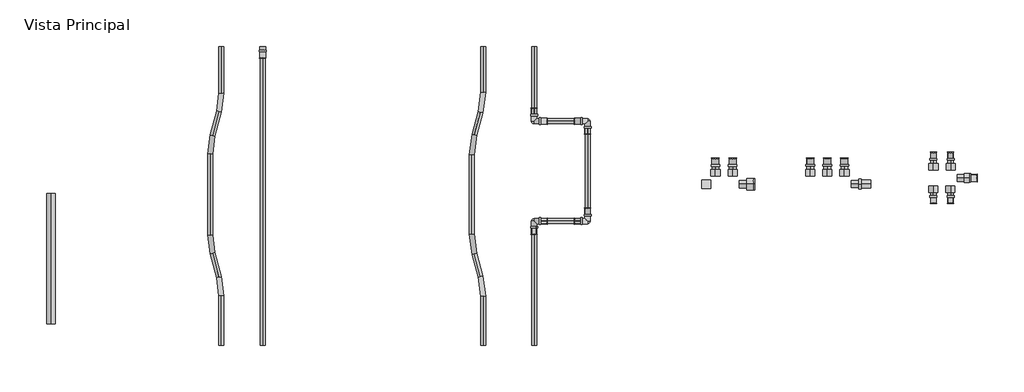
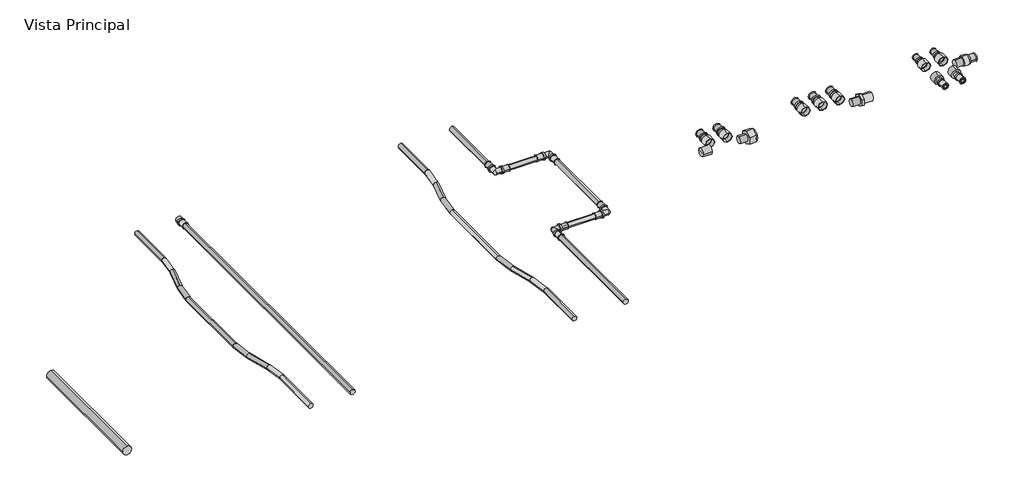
# One storey, incomplete: 45 pipe fittings, 17 pipe segments.
"""IFC4 building model written with IfcOpenShell, lengths in millimetres."""

from ifc_helpers import new_model, si_unit, point, frame, frame_2d, origin, place, context, project, spatial, circle_curve, trimmed, segment, composite_curve, outline, extrude, transform, mapped, element, save
from components import branco_24b230a2, k5_c3ce4855, k5_c3ecb90c, k5_74904ce1, k5_70490e45, k5_2a702368, vermelho_d769db20, var_72aea8ce, var_25c4f382, var_805c13c2, var_f6f279d3, var_521f35e1, var_d158d0bf

model = new_model("IFC4")

# Units and contexts
model_context = context("Model", 3, world=origin())
ifc_project = project(units=[si_unit("LENGTHUNIT", "METRE", prefix="MILLI")], contexts=[model_context])

# Site, building, storey
site = spatial("IfcSite", under=ifc_project)
building = spatial("IfcBuilding", under=site)
storey = spatial("IfcBuildingStorey", under=building, Name="Vista Principal", Elevation=0.0)

# Pipe fittings
placement = place(None, origin())
branco_shape = branco_24b230a2(model_context)
element("IfcPipeFitting", 1, ObjectType="AmancoWavin_ConexõesdeTubos_K5TuboFlexíveis : BRANCO", at=placement, inside=storey, context=model_context, shape_type="MappedRepresentation", body=[
    mapped(branco_shape, transform((1064.4256685, 639.6949026, 0.0), x_axis=(0.0, 1.0, 0.0), y_axis=(-1.0, 0.0, 0.0), z_axis=(0.0, 0.0, 1.0))),
])
element("IfcPipeFitting", 2, ObjectType="AmancoWavin_ConexõesdeTubos_K5TuboFlexíveis : BRANCO", at=placement, inside=storey, context=model_context, shape_type="MappedRepresentation", body=[
    mapped(branco_shape, transform((1028.1910021, 774.9245183, 0.0), x_axis=(0.0, -1.0, 0.0), y_axis=(1.0, 0.0, 0.0), z_axis=(0.0, 0.0, 1.0))),
])
element("IfcPipeFitting", 3, ObjectType="AmancoWavin_ConexõesdeTubos_K5TuboFlexíveis : BRANCO", at=placement, inside=storey, context=model_context, shape_type="MappedRepresentation", body=[
    mapped(branco_shape, transform((1064.4256685, 1230.1541339, 0.0), x_axis=(0.2588190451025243, 0.9659258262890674, 0.0), y_axis=(-0.9659258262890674, 0.2588190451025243, 0.0), z_axis=(0.0, 0.0, 1.0))),
])
element("IfcPipeFitting", 4, ObjectType="AmancoWavin_ConexõesdeTubos_K5TuboFlexíveis : BRANCO", at=placement, inside=storey, context=model_context, shape_type="MappedRepresentation", body=[
    mapped(branco_shape, transform((1028.1910021, 1094.9245183, 0.0), x_axis=(-0.258819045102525, -0.9659258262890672, 0.0), y_axis=(0.9659258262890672, -0.258819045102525, 0.0), z_axis=(0.0, 0.0, 1.0))),
])
k5_shape = k5_c3ce4855(model_context)
element("IfcPipeFitting", 5, ObjectType="SocketKMForTransition : K5", at=placement, inside=storey, context=model_context, shape_type="MappedRepresentation", body=[
    mapped(k5_shape, transform((2705.2509744, 1025.0541339, 0.0), x_axis=(0.0, -1.0000000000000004, 0.0), y_axis=(1.0000000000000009, 0.0, 0.0), z_axis=(0.0, 0.0, 1.0000000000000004))),
])
element("IfcPipeFitting", 6, ObjectType="SocketKMForTransition : K5", at=placement, inside=storey, context=model_context, shape_type="MappedRepresentation", body=[
    mapped(k5_shape, transform((2650.2509744, 1025.0541339, 0.0), x_axis=(0.0, -1.0000000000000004, 0.0), y_axis=(1.0000000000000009, 0.0, 0.0), z_axis=(0.0, 0.0, 1.0000000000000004))),
])
element("IfcPipeFitting", 7, ObjectType="SocketKMForTransition : K5", at=placement, inside=storey, context=model_context, shape_type="MappedRepresentation", body=[
    mapped(k5_shape, transform((3465.2801111, 987.8725491, 0.0), x_axis=(-1.0000000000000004, 0.0, 0.0), y_axis=(0.0, -1.0000000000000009, 0.0), z_axis=(0.0, 0.0, 1.0000000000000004))),
])
element("IfcPipeFitting", 8, ObjectType="SocketKMForTransition : K5", at=placement, inside=storey, context=model_context, shape_type="MappedRepresentation", body=[
    mapped(k5_shape, transform((3009.2478032, 1025.2725491, 0.0), x_axis=(0.0, -1.0000000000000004, 0.0), y_axis=(1.0000000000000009, 0.0, 0.0), z_axis=(0.0, 0.0, 1.0000000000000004))),
])
element("IfcPipeFitting", 9, ObjectType="SocketKMForTransition : K5", at=placement, inside=storey, context=model_context, shape_type="MappedRepresentation", body=[
    mapped(k5_shape, transform((3064.2478032, 1025.2725491, 0.0), x_axis=(0.0, -1.0000000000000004, 0.0), y_axis=(1.0000000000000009, 0.0, 0.0), z_axis=(0.0, 0.0, 1.0000000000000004))),
])
element("IfcPipeFitting", 10, ObjectType="SocketKMForTransition : K5", at=placement, inside=storey, context=model_context, shape_type="MappedRepresentation", body=[
    mapped(k5_shape, transform((2954.2478032, 1025.2725491, 0.0), x_axis=(0.0, -1.0000000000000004, 0.0), y_axis=(1.0000000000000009, 0.0, 0.0), z_axis=(0.0, 0.0, 1.0000000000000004))),
])
k5_2_shape = k5_c3ecb90c(model_context)
element("IfcPipeFitting", 11, ObjectType="AmancoWavin_ConexõesdeTubos_K5ZNãoUsarCampana : K5", at=placement, inside=storey, context=model_context, shape_type="MappedRepresentation", body=[
    mapped(k5_2_shape, transform((2068.0670805, 1187.1541339, 0.0), x_axis=(0.0, -1.0, 0.0), y_axis=(1.0, 0.0, 0.0), z_axis=(0.0, 0.0, 1.0))),
])
element("IfcPipeFitting", 12, ObjectType="AmancoWavin_ConexõesdeTubos_K5ZNãoUsarCampana : K5", at=placement, inside=storey, context=model_context, shape_type="MappedRepresentation", body=[
    mapped(k5_2_shape, transform((2085.0670805, 1170.1541339, 0.0), x_axis=(-1.0, 0.0, 0.0), y_axis=(0.0, -1.0, 0.0), z_axis=(0.0, 0.0, 1.0))),
])
element("IfcPipeFitting", 13, ObjectType="AmancoWavin_ConexõesdeTubos_K5ZNãoUsarCampana : K5", at=placement, inside=storey, context=model_context, shape_type="MappedRepresentation", body=[
    mapped(k5_2_shape, transform((2239.7994926, 1153.1541339, 0.0), x_axis=(0.0, 1.0, 0.0), y_axis=(-1.0, 0.0, 0.0), z_axis=(0.0, 0.0, 1.0))),
])
element("IfcPipeFitting", 14, ObjectType="AmancoWavin_ConexõesdeTubos_K5ZNãoUsarCampana : K5", at=placement, inside=storey, context=model_context, shape_type="MappedRepresentation", body=[
    mapped(k5_2_shape, transform((2222.7994926, 1170.1541339, 0.0), x_axis=(1.0, 0.0, 0.0), y_axis=(0.0, 1.0, 0.0), z_axis=(0.0, 0.0, 1.0))),
])
element("IfcPipeFitting", 15, ObjectType="AmancoWavin_ConexõesdeTubos_K5ZNãoUsarCampana : K5", at=placement, inside=storey, context=model_context, shape_type="MappedRepresentation", body=[
    mapped(k5_2_shape, transform((2222.7994926, 848.6503168, 0.0), x_axis=(1.0, 0.0, 0.0), y_axis=(0.0, 1.0, 0.0), z_axis=(0.0, 0.0, 1.0))),
])
element("IfcPipeFitting", 16, ObjectType="AmancoWavin_ConexõesdeTubos_K5ZNãoUsarCampana : K5", at=placement, inside=storey, context=model_context, shape_type="MappedRepresentation", body=[
    mapped(k5_2_shape, transform((2239.7994926, 865.6503168, 0.0), x_axis=(0.0, -1.0, 0.0), y_axis=(1.0, 0.0, 0.0), z_axis=(0.0, 0.0, 1.0))),
])
element("IfcPipeFitting", 17, ObjectType="AmancoWavin_ConexõesdeTubos_K5ZNãoUsarCampana : K5", at=placement, inside=storey, context=model_context, shape_type="MappedRepresentation", body=[
    mapped(k5_2_shape, transform((2085.0670805, 848.6503168, 0.0), x_axis=(-1.0, 0.0, 0.0), y_axis=(0.0, -1.0, 0.0), z_axis=(0.0, 0.0, 1.0))),
])
element("IfcPipeFitting", 18, ObjectType="AmancoWavin_ConexõesdeTubos_K5ZNãoUsarCampana : K5", at=placement, inside=storey, context=model_context, shape_type="MappedRepresentation", body=[
    mapped(k5_2_shape, transform((2068.0670805, 831.6503168, 0.0), x_axis=(0.0, 1.0, 0.0), y_axis=(-1.0, 0.0, 0.0), z_axis=(0.0, 0.0, 1.0))),
])
element("IfcPipeFitting", 19, ObjectType="AmancoWavin_ConexõesdeTubos_K5ZNãoUsarCampana : K5", at=placement, inside=storey, context=model_context, shape_type="MappedRepresentation", body=[
    mapped(k5_2_shape, transform((1197.0457902, 1398.1541339, 0.0), x_axis=(0.0, 1.0, 0.0), y_axis=(-1.0, 0.0, 0.0), z_axis=(0.0, 0.0, 1.0))),
])
k5_3_shape = k5_74904ce1(model_context)
element("IfcPipeFitting", 20, ObjectType="AmancoWavin_ConexõesdeTubos_K5Joelho : K5", at=placement, inside=storey, context=model_context, shape_type="MappedRepresentation", body=[
    mapped(k5_3_shape, transform((2068.0670805, 1170.1541339, 0.0), x_axis=(0.0, -1.0, 0.0), y_axis=(1.0, 0.0, 0.0), z_axis=(0.0, 0.0, 1.0))),
])
element("IfcPipeFitting", 21, ObjectType="AmancoWavin_ConexõesdeTubos_K5Joelho : K5", at=placement, inside=storey, context=model_context, shape_type="MappedRepresentation", body=[
    mapped(k5_3_shape, transform((2239.7994926, 1170.1541339, 0.0), x_axis=(0.0, 1.0, 0.0), y_axis=(-1.0, 0.0, 0.0), z_axis=(0.0, 0.0, 1.0))),
])
element("IfcPipeFitting", 22, ObjectType="AmancoWavin_ConexõesdeTubos_K5Joelho : K5", at=placement, inside=storey, context=model_context, shape_type="MappedRepresentation", body=[
    mapped(k5_3_shape, transform((2239.7994926, 848.6503168, 0.0), x_axis=(1.0, 0.0, 0.0), y_axis=(0.0, 1.0, 0.0), z_axis=(0.0, 0.0, 1.0))),
])
element("IfcPipeFitting", 23, ObjectType="AmancoWavin_ConexõesdeTubos_K5Joelho : K5", at=placement, inside=storey, context=model_context, shape_type="MappedRepresentation", body=[
    mapped(k5_3_shape, transform((2068.0670805, 848.6503168, 0.0), x_axis=(-1.0, 0.0, 0.0), y_axis=(0.0, -1.0, 0.0), z_axis=(0.0, 0.0, 1.0))),
])
k5_4_shape = k5_70490e45(model_context)
element("IfcPipeFitting", 24, ObjectType="SocketKMForTransition : K5", at=placement, inside=storey, context=model_context, shape_type="MappedRepresentation", body=[
    mapped(k5_4_shape, transform((3349.7801111, 1045.2725491, 0.0), x_axis=(0.0, -1.0000000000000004, 0.0), y_axis=(1.0000000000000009, 0.0, 0.0), z_axis=(0.0, 0.0, 1.0000000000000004))),
])
element("IfcPipeFitting", 25, ObjectType="SocketKMForTransition : K5", at=placement, inside=storey, context=model_context, shape_type="MappedRepresentation", body=[
    mapped(k5_4_shape, transform((3404.7801111, 1045.2725491, 0.0), x_axis=(0.0, -1.0000000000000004, 0.0), y_axis=(1.0000000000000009, 0.0, 0.0), z_axis=(0.0, 0.0, 1.0000000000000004))),
])
element("IfcPipeFitting", 26, ObjectType="SocketKMForTransition : K5", at=placement, inside=storey, context=model_context, shape_type="MappedRepresentation", body=[
    mapped(k5_4_shape, transform((3349.7801111, 930.4725491, 0.0), x_axis=(0.0, 1.0000000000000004, 0.0), y_axis=(-1.0000000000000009, 0.0, 0.0), z_axis=(0.0, 0.0, 1.0000000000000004))),
])
element("IfcPipeFitting", 27, ObjectType="SocketKMForTransition : K5", at=placement, inside=storey, context=model_context, shape_type="MappedRepresentation", body=[
    mapped(k5_4_shape, transform((3404.7801111, 930.4725491, 0.0), x_axis=(0.0, 1.0000000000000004, 0.0), y_axis=(-1.0000000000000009, 0.0, 0.0), z_axis=(0.0, 0.0, 1.0000000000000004))),
])
k5_5_shape = k5_2a702368(model_context)
element("IfcPipeFitting", 28, ObjectType="AmancoWavin_ConexõesdeTubos_K5Cap : K5", at=placement, inside=storey, context=model_context, shape_type="MappedRepresentation", body=[
    mapped(k5_5_shape, transform((1197.0457902, 1410.1541339, 0.0), x_axis=(0.0, 1.0, 0.0), y_axis=(-1.0, 0.0, 0.0), z_axis=(0.0, 0.0, 1.0))),
])
vermelho_shape = vermelho_d769db20(model_context)
element("IfcPipeFitting", 29, ObjectType="AmancoWavin_ConexõesdeTubos_K5TuboFlexíveis : VERMELHO", at=placement, inside=storey, context=model_context, shape_type="MappedRepresentation", body=[
    mapped(vermelho_shape, transform((1904.4256685, 1230.1541339, 0.0), x_axis=(0.258819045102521, 0.9659258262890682, 0.0), y_axis=(-0.9659258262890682, 0.258819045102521, 0.0), z_axis=(0.0, 0.0, 1.0))),
])
element("IfcPipeFitting", 30, ObjectType="AmancoWavin_ConexõesdeTubos_K5TuboFlexíveis : VERMELHO", at=placement, inside=storey, context=model_context, shape_type="MappedRepresentation", body=[
    mapped(vermelho_shape, transform((1868.1910021, 774.9245183, 0.0), x_axis=(0.0, -1.0, 0.0), y_axis=(1.0, 0.0, 0.0), z_axis=(0.0, 0.0, 1.0))),
])
element("IfcPipeFitting", 31, ObjectType="AmancoWavin_ConexõesdeTubos_K5TuboFlexíveis : VERMELHO", at=placement, inside=storey, context=model_context, shape_type="MappedRepresentation", body=[
    mapped(vermelho_shape, transform((1868.1910021, 1094.9245183, 0.0), x_axis=(-0.25881904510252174, -0.9659258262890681, 0.0), y_axis=(0.9659258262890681, -0.25881904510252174, 0.0), z_axis=(0.0, 0.0, 1.0))),
])
element("IfcPipeFitting", 32, ObjectType="AmancoWavin_ConexõesdeTubos_K5TuboFlexíveis : VERMELHO", at=placement, inside=storey, context=model_context, shape_type="MappedRepresentation", body=[
    mapped(vermelho_shape, transform((1904.4256685, 639.6949026, 0.0), x_axis=(0.0, 1.0, 0.0), y_axis=(-1.0, 0.0, 0.0), z_axis=(0.0, 0.0, 1.0))),
])
var_shape = var_72aea8ce(model_context)
element("IfcPipeFitting", 33, ObjectType="AmancoWavin_ConexõesdeTubos_K5ZNãoUsarConectorMódulodeDistribuição : Var.", at=placement, inside=storey, context=model_context, shape_type="MappedRepresentation", body=[
    mapped(var_shape, transform((2705.2509744, 1025.0541339, 0.0), x_axis=(0.0, 1.0, 0.0), y_axis=(-1.0, 0.0, 0.0), z_axis=(0.0, 0.0, 1.0))),
])
element("IfcPipeFitting", 34, ObjectType="AmancoWavin_ConexõesdeTubos_K5ZNãoUsarConectorMódulodeDistribuição : Var.", at=placement, inside=storey, context=model_context, shape_type="MappedRepresentation", body=[
    mapped(var_shape, transform((2650.2509744, 1025.0541339, 0.0), x_axis=(0.0, 1.0, 0.0), y_axis=(-1.0, 0.0, 0.0), z_axis=(0.0, 0.0, 1.0))),
])
element("IfcPipeFitting", 35, ObjectType="AmancoWavin_ConexõesdeTubos_K5ZNãoUsarConectorMódulodeDistribuição : Var.", at=placement, inside=storey, context=model_context, shape_type="MappedRepresentation", body=[
    mapped(var_shape, transform((3009.2478032, 1025.2725491, 0.0), x_axis=(0.0, 1.0, 0.0), y_axis=(-1.0, 0.0, 0.0), z_axis=(0.0, 0.0, 1.0))),
])
element("IfcPipeFitting", 36, ObjectType="AmancoWavin_ConexõesdeTubos_K5ZNãoUsarConectorMódulodeDistribuição : Var.", at=placement, inside=storey, context=model_context, shape_type="MappedRepresentation", body=[
    mapped(var_shape, transform((3064.2478032, 1025.2725491, 0.0), x_axis=(0.0, 1.0, 0.0), y_axis=(-1.0, 0.0, 0.0), z_axis=(0.0, 0.0, 1.0))),
])
element("IfcPipeFitting", 37, ObjectType="AmancoWavin_ConexõesdeTubos_K5ZNãoUsarConectorMódulodeDistribuição : Var.", at=placement, inside=storey, context=model_context, shape_type="MappedRepresentation", body=[
    mapped(var_shape, transform((2954.2478032, 1025.2725491, 0.0), x_axis=(0.0, 1.0, 0.0), y_axis=(-1.0, 0.0, 0.0), z_axis=(0.0, 0.0, 1.0))),
])
var_2_shape = var_25c4f382(model_context)
element("IfcPipeFitting", 38, ObjectType="AmancoWavin_ConexõesdeTubos_K5ZNãoUsarCapSaidaMódulodeDistribuição : Var.", at=placement, inside=storey, context=model_context, shape_type="MappedRepresentation", body=[
    mapped(var_2_shape, transform((2614.2509744, 967.6541339, 0.0), x_axis=(-1.0, 0.0, 0.0), y_axis=(0.0, -1.0, 0.0), z_axis=(0.0, 0.0, 1.0))),
])
var_3_shape = var_805c13c2(model_context)
element("IfcPipeFitting", 39, ObjectType="AmancoWavin_ConexõesdeTubos_K5ZNãoUsarRoscaMacho-MachoManifold(nested) : Var.", at=placement, inside=storey, context=model_context, shape_type="MappedRepresentation", body=[
    mapped(var_3_shape, transform((3148.7478032, 967.8725491, 0.0), x_axis=(1.0, 0.0, 0.0), y_axis=(0.0, 1.0, 0.0), z_axis=(0.0, 0.0, 1.0))),
])
var_4_shape = var_f6f279d3(model_context)
element("IfcPipeFitting", 40, ObjectType="AmancoWavin_ConexõesdeTubos_K5ZNãoUsarConectorFêmeaMódulodeDistribuição(nested) : Var.", at=placement, inside=storey, context=model_context, shape_type="MappedRepresentation", body=[
    mapped(var_4_shape, transform((2726.7509744, 967.6541339, 0.0), x_axis=(1.0, 0.0, 0.0), y_axis=(0.0, 1.0, 0.0), z_axis=(0.0, 0.0, 1.0))),
])
var_5_shape = var_521f35e1(model_context)
element("IfcPipeFitting", 41, ObjectType="AmancoWavin_ConexõesdeTubos_K5ZNãoUsarAdaptadorMachoMódulodeDistribuição(nested) : Var.", at=placement, inside=storey, context=model_context, shape_type="MappedRepresentation", body=[
    mapped(var_5_shape, transform((3465.2801111, 987.8725491, 0.0), x_axis=(1.0, 0.0, 0.0), y_axis=(0.0, 1.0, 0.0), z_axis=(0.0, 0.0, 1.0))),
])
var_6_shape = var_d158d0bf(model_context)
element("IfcPipeFitting", 42, ObjectType="AmancoWavin_ConexõesdeTubos_K5ZNãoUsarConectorMódulodeDistribuição : Var.", at=placement, inside=storey, context=model_context, shape_type="MappedRepresentation", body=[
    mapped(var_6_shape, transform((3349.7801111, 1045.2725491, 0.0), x_axis=(0.0, 1.0, 0.0), y_axis=(-1.0, 0.0, 0.0), z_axis=(0.0, 0.0, 1.0))),
])
element("IfcPipeFitting", 43, ObjectType="AmancoWavin_ConexõesdeTubos_K5ZNãoUsarConectorMódulodeDistribuição : Var.", at=placement, inside=storey, context=model_context, shape_type="MappedRepresentation", body=[
    mapped(var_6_shape, transform((3404.7801111, 1045.2725491, 0.0), x_axis=(0.0, 1.0, 0.0), y_axis=(-1.0, 0.0, 0.0), z_axis=(0.0, 0.0, 1.0))),
])
element("IfcPipeFitting", 44, ObjectType="AmancoWavin_ConexõesdeTubos_K5ZNãoUsarConectorMódulodeDistribuição : Var.", at=placement, inside=storey, context=model_context, shape_type="MappedRepresentation", body=[
    mapped(var_6_shape, transform((3349.7801111, 930.4725491, 0.0), x_axis=(0.0, -1.0, 0.0), y_axis=(1.0, 0.0, 0.0), z_axis=(0.0, 0.0, 1.0))),
])
element("IfcPipeFitting", 45, ObjectType="AmancoWavin_ConexõesdeTubos_K5ZNãoUsarConectorMódulodeDistribuição : Var.", at=placement, inside=storey, context=model_context, shape_type="MappedRepresentation", body=[
    mapped(var_6_shape, transform((3404.7801111, 930.4725491, 0.0), x_axis=(0.0, -1.0, 0.0), y_axis=(1.0, 0.0, 0.0), z_axis=(0.0, 0.0, 1.0))),
])

# Pipe segments
element("IfcPipeSegment", 46, ObjectType="AmancoWavin_TuberíasFlexibles_PE-RTBranco 16-32 mm (50 mts-100 mts)", at=placement, inside=storey, context=model_context, shape_type="SweptSolid", body=[
    extrude(outline(composite_curve([segment(trimmed(circle_curve(frame_2d((0.0, 1197.0457902)), 8.0), [point((0.0, 1205.0457902))], [point((8.0, 1197.0457902))], False, "CARTESIAN"), True, "CONTINUOUS"), segment(trimmed(circle_curve(frame_2d((0.0, 1197.0457902)), 8.0), [point((8.0, 1197.0457902))], [point((0.0, 1189.0457902))], False, "CARTESIAN"), True, "CONTINUOUS"), segment(trimmed(circle_curve(frame_2d((0.0, 1197.0457902)), 8.0), [point((0.0, 1189.0457902))], [point((-8.0, 1197.0457902))], False, "CARTESIAN"), True, "CONTINUOUS"), segment(trimmed(circle_curve(frame_2d((0.0, 1197.0457902)), 8.0), [point((-8.0, 1197.0457902))], [point((0.0, 1205.0457902))], False, "CARTESIAN"), True, "CONTINUOUS")], self_intersect=False)), frame((0.0, 450.1541339, 0.0), z_axis=(0.0, 1.0, 0.0), x_axis=(0.0, 0.0, 1.0)), (0.0, 0.0, 1.0), 948.0),
])
element("IfcPipeSegment", 47, ObjectType="AmancoWavin_TuberíasFlexibles_PE-RTVermelho 16-32 mm (50 mts-100 mts)", at=placement, inside=storey, context=model_context, shape_type="SweptSolid", body=[
    extrude(outline(composite_curve([segment(trimmed(circle_curve(frame_2d((0.0, -8.0)), 8.0), [point((-8.0, -8.0))], [point((0.0, 0.0))], False, "CARTESIAN"), True, "CONTINUOUS"), segment(trimmed(circle_curve(frame_2d((0.0, -8.0)), 8.0), [point((0.0, 0.0))], [point((8.0, -8.0))], False, "CARTESIAN"), True, "CONTINUOUS"), segment(trimmed(circle_curve(frame_2d((0.0, -8.0)), 8.0), [point((8.0, -8.0))], [point((0.0, -16.0))], False, "CARTESIAN"), True, "CONTINUOUS"), segment(trimmed(circle_curve(frame_2d((0.0, -8.0)), 8.0), [point((0.0, -16.0))], [point((-8.0, -8.0))], False, "CARTESIAN"), True, "CONTINUOUS")], self_intersect=False)), frame((1876.7095456, 1126.7161551, -8.0), z_axis=(0.25881904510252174, 0.9659258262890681, 0.0), x_axis=(0.9659258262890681, -0.25881904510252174, 0.0)), (0.0, 0.0, 1.0), 74.1737512),
])
element("IfcPipeSegment", 48, ObjectType="AmancoWavin_TuberíasFlexibles_PE-RTVermelho 16-32 mm (50 mts-100 mts)", at=placement, inside=storey, context=model_context, shape_type="SweptSolid", body=[
    extrude(outline(composite_curve([segment(trimmed(circle_curve(frame_2d((0.0, 1868.1910021)), 8.0), [point((0.0, 1876.1910021))], [point((8.0, 1868.1910021))], False, "CARTESIAN"), True, "CONTINUOUS"), segment(trimmed(circle_curve(frame_2d((0.0, 1868.1910021)), 8.0), [point((8.0, 1868.1910021))], [point((0.0, 1860.1910021))], False, "CARTESIAN"), True, "CONTINUOUS"), segment(trimmed(circle_curve(frame_2d((0.0, 1868.1910021)), 8.0), [point((0.0, 1860.1910021))], [point((-8.0, 1868.1910021))], False, "CARTESIAN"), True, "CONTINUOUS"), segment(trimmed(circle_curve(frame_2d((0.0, 1868.1910021)), 8.0), [point((-8.0, 1868.1910021))], [point((0.0, 1876.1910021))], False, "CARTESIAN"), True, "CONTINUOUS")], self_intersect=False)), frame((0.0, 807.8376427, 0.0), z_axis=(0.0, 1.0, 0.0), x_axis=(0.0, 0.0, 1.0)), (0.0, 0.0, 1.0), 254.1737512),
])
element("IfcPipeSegment", 49, ObjectType="AmancoWavin_TuberíasFlexibles_PE-RTVermelho 16-32 mm (50 mts-100 mts)", at=placement, inside=storey, context=model_context, shape_type="SweptSolid", body=[
    extrude(outline(composite_curve([segment(trimmed(circle_curve(frame_2d((0.0, 8.0)), 8.0), [point((8.0, 8.0))], [point((0.0, 0.0))], False, "CARTESIAN"), True, "CONTINUOUS"), segment(trimmed(circle_curve(frame_2d((0.0, 8.0)), 8.0), [point((0.0, 0.0))], [point((-8.0, 8.0))], False, "CARTESIAN"), True, "CONTINUOUS"), segment(trimmed(circle_curve(frame_2d((0.0, 8.0)), 8.0), [point((-8.0, 8.0))], [point((0.0, 16.0))], False, "CARTESIAN"), True, "CONTINUOUS"), segment(trimmed(circle_curve(frame_2d((0.0, 8.0)), 8.0), [point((0.0, 16.0))], [point((8.0, 8.0))], False, "CARTESIAN"), True, "CONTINUOUS")], self_intersect=False)), frame((1895.907125, 671.4865395, 8.0), z_axis=(-0.25881904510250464, 0.9659258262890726, 0.0), x_axis=(0.9659258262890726, 0.25881904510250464, 0.0)), (0.0, 0.0, 1.0), 74.1737512),
])
element("IfcPipeSegment", 50, ObjectType="AmancoWavin_TuberíasFlexibles_PE-RTVermelho 16-32 mm (50 mts-100 mts)", at=placement, inside=storey, context=model_context, shape_type="SweptSolid", body=[
    extrude(outline(composite_curve([segment(trimmed(circle_curve(frame_2d((0.0, 1904.4256685)), 8.0), [point((0.0, 1896.4256685))], [point((-8.0, 1904.4256685))], False, "CARTESIAN"), True, "CONTINUOUS"), segment(trimmed(circle_curve(frame_2d((0.0, 1904.4256685)), 8.0), [point((-8.0, 1904.4256685))], [point((0.0, 1912.4256685))], False, "CARTESIAN"), True, "CONTINUOUS"), segment(trimmed(circle_curve(frame_2d((0.0, 1904.4256685)), 8.0), [point((0.0, 1912.4256685))], [point((8.0, 1904.4256685))], False, "CARTESIAN"), True, "CONTINUOUS"), segment(trimmed(circle_curve(frame_2d((0.0, 1904.4256685)), 8.0), [point((8.0, 1904.4256685))], [point((0.0, 1896.4256685))], False, "CARTESIAN"), True, "CONTINUOUS")], self_intersect=False)), frame((0.0, 1263.0672583, 0.0), z_axis=(0.0, 1.0, 0.0), x_axis=(0.0, 0.0, 1.0)), (0.0, 0.0, 1.0), 147.0868756),
])
element("IfcPipeSegment", 51, ObjectType="AmancoWavin_TuberíasFlexibles_PE-RTVermelho 16-32 mm (50 mts-100 mts)", at=placement, inside=storey, context=model_context, shape_type="SweptSolid", body=[
    extrude(outline(composite_curve([segment(trimmed(circle_curve(frame_2d((0.0, 1904.4256685)), 8.0), [point((0.0, 1896.4256685))], [point((-8.0, 1904.4256685))], False, "CARTESIAN"), True, "CONTINUOUS"), segment(trimmed(circle_curve(frame_2d((0.0, 1904.4256685)), 8.0), [point((-8.0, 1904.4256685))], [point((0.0, 1912.4256685))], False, "CARTESIAN"), True, "CONTINUOUS"), segment(trimmed(circle_curve(frame_2d((0.0, 1904.4256685)), 8.0), [point((0.0, 1912.4256685))], [point((8.0, 1904.4256685))], False, "CARTESIAN"), True, "CONTINUOUS"), segment(trimmed(circle_curve(frame_2d((0.0, 1904.4256685)), 8.0), [point((8.0, 1904.4256685))], [point((0.0, 1896.4256685))], False, "CARTESIAN"), True, "CONTINUOUS")], self_intersect=False)), frame((0.0, 450.1541339, 0.0), z_axis=(0.0, 1.0, 0.0), x_axis=(0.0, 0.0, 1.0)), (0.0, 0.0, 1.0), 156.6276442),
])
element("IfcPipeSegment", 52, ObjectType="Tubo de Transição Universal", at=placement, inside=storey, context=model_context, shape_type="SweptSolid", body=[
    extrude(outline(composite_curve([segment(trimmed(circle_curve(frame_2d((0.0, 517.6045479)), 14.2875), [point((0.0, 503.3170479))], [point((-14.2875, 517.6045479))], False, "CARTESIAN"), True, "CONTINUOUS"), segment(trimmed(circle_curve(frame_2d((0.0, 517.6045479)), 14.2875), [point((-14.2875, 517.6045479))], [point((0.0, 531.8920479))], False, "CARTESIAN"), True, "CONTINUOUS"), segment(trimmed(circle_curve(frame_2d((0.0, 517.6045479)), 14.2875), [point((0.0, 531.8920479))], [point((14.2875, 517.6045479))], False, "CARTESIAN"), True, "CONTINUOUS"), segment(trimmed(circle_curve(frame_2d((0.0, 517.6045479)), 14.2875), [point((14.2875, 517.6045479))], [point((0.0, 503.3170479))], False, "CARTESIAN"), True, "CONTINUOUS")], self_intersect=False)), frame((0.0, 517.9987022, 0.0), z_axis=(0.0, 1.0, 0.0), x_axis=(0.0, 0.0, 1.0)), (0.0, 0.0, 1.0), 420.0),
])
element("IfcPipeSegment", 53, ObjectType="AmancoWavin_TuberíasFlexibles_PE-RTBranco 16-32 mm (50 mts-100 mts)", at=placement, inside=storey, context=model_context, shape_type="SweptSolid", body=[
    extrude(outline(composite_curve([segment(trimmed(circle_curve(frame_2d((0.0, -8.0)), 8.0), [point((-8.0, -8.0))], [point((0.0, 0.0))], False, "CARTESIAN"), True, "CONTINUOUS"), segment(trimmed(circle_curve(frame_2d((0.0, -8.0)), 8.0), [point((0.0, 0.0))], [point((8.0, -8.0))], False, "CARTESIAN"), True, "CONTINUOUS"), segment(trimmed(circle_curve(frame_2d((0.0, -8.0)), 8.0), [point((8.0, -8.0))], [point((0.0, -16.0))], False, "CARTESIAN"), True, "CONTINUOUS"), segment(trimmed(circle_curve(frame_2d((0.0, -8.0)), 8.0), [point((0.0, -16.0))], [point((-8.0, -8.0))], False, "CARTESIAN"), True, "CONTINUOUS")], self_intersect=False)), frame((1036.0280621, 1124.1728242, -8.0), z_axis=(0.25881904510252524, 0.9659258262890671, 0.0), x_axis=(0.9659258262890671, -0.25881904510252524, 0.0)), (0.0, 0.0, 1.0), 79.4398511),
])
element("IfcPipeSegment", 54, ObjectType="AmancoWavin_TuberíasFlexibles_PE-RTBranco 16-32 mm (50 mts-100 mts)", at=placement, inside=storey, context=model_context, shape_type="SweptSolid", body=[
    extrude(outline(composite_curve([segment(trimmed(circle_curve(frame_2d((0.0, 1028.1910021)), 8.0), [point((0.0, 1020.1910021))], [point((-8.0, 1028.1910021))], False, "CARTESIAN"), True, "CONTINUOUS"), segment(trimmed(circle_curve(frame_2d((0.0, 1028.1910021)), 8.0), [point((-8.0, 1028.1910021))], [point((0.0, 1036.1910021))], False, "CARTESIAN"), True, "CONTINUOUS"), segment(trimmed(circle_curve(frame_2d((0.0, 1028.1910021)), 8.0), [point((0.0, 1036.1910021))], [point((8.0, 1028.1910021))], False, "CARTESIAN"), True, "CONTINUOUS"), segment(trimmed(circle_curve(frame_2d((0.0, 1028.1910021)), 8.0), [point((8.0, 1028.1910021))], [point((0.0, 1020.1910021))], False, "CARTESIAN"), True, "CONTINUOUS")], self_intersect=False)), frame((0.0, 805.2045927, 0.0), z_axis=(0.0, 1.0, 0.0), x_axis=(0.0, 0.0, 1.0)), (0.0, 0.0, 1.0), 259.4398511),
])
element("IfcPipeSegment", 55, ObjectType="AmancoWavin_TuberíasFlexibles_PE-RTBranco 16-32 mm (50 mts-100 mts)", at=placement, inside=storey, context=model_context, shape_type="SweptSolid", body=[
    extrude(outline(composite_curve([segment(trimmed(circle_curve(frame_2d((0.0, -8.0)), 8.0), [point((-8.0, -8.0))], [point((0.0, 0.0))], False, "CARTESIAN"), True, "CONTINUOUS"), segment(trimmed(circle_curve(frame_2d((0.0, -8.0)), 8.0), [point((0.0, 0.0))], [point((8.0, -8.0))], False, "CARTESIAN"), True, "CONTINUOUS"), segment(trimmed(circle_curve(frame_2d((0.0, -8.0)), 8.0), [point((8.0, -8.0))], [point((0.0, -16.0))], False, "CARTESIAN"), True, "CONTINUOUS"), segment(trimmed(circle_curve(frame_2d((0.0, -8.0)), 8.0), [point((0.0, -16.0))], [point((-8.0, -8.0))], False, "CARTESIAN"), True, "CONTINUOUS")], self_intersect=False)), frame((1056.5886085, 668.9432085, -8.0), z_axis=(-0.25881904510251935, 0.9659258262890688, 0.0), x_axis=(0.9659258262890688, 0.25881904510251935, 0.0)), (0.0, 0.0, 1.0), 79.4398511),
])
element("IfcPipeSegment", 56, ObjectType="AmancoWavin_TuberíasFlexibles_PE-RTBranco 16-32 mm (50 mts-100 mts)", at=placement, inside=storey, context=model_context, shape_type="SweptSolid", body=[
    extrude(outline(composite_curve([segment(trimmed(circle_curve(frame_2d((0.0, 1064.4256685)), 8.0), [point((0.0, 1056.4256685))], [point((-8.0, 1064.4256685))], False, "CARTESIAN"), True, "CONTINUOUS"), segment(trimmed(circle_curve(frame_2d((0.0, 1064.4256685)), 8.0), [point((-8.0, 1064.4256685))], [point((0.0, 1072.4256685))], False, "CARTESIAN"), True, "CONTINUOUS"), segment(trimmed(circle_curve(frame_2d((0.0, 1064.4256685)), 8.0), [point((0.0, 1072.4256685))], [point((8.0, 1064.4256685))], False, "CARTESIAN"), True, "CONTINUOUS"), segment(trimmed(circle_curve(frame_2d((0.0, 1064.4256685)), 8.0), [point((8.0, 1064.4256685))], [point((0.0, 1056.4256685))], False, "CARTESIAN"), True, "CONTINUOUS")], self_intersect=False)), frame((0.0, 1260.4342084, 0.0), z_axis=(0.0, 1.0, 0.0), x_axis=(0.0, 0.0, 1.0)), (0.0, 0.0, 1.0), 149.7199256),
])
element("IfcPipeSegment", 57, ObjectType="AmancoWavin_TuberíasFlexibles_PE-RTBranco 16-32 mm (50 mts-100 mts)", at=placement, inside=storey, context=model_context, shape_type="SweptSolid", body=[
    extrude(outline(composite_curve([segment(trimmed(circle_curve(frame_2d((0.0, 1064.4256685)), 8.0), [point((0.0, 1072.4256685))], [point((8.0, 1064.4256685))], False, "CARTESIAN"), True, "CONTINUOUS"), segment(trimmed(circle_curve(frame_2d((0.0, 1064.4256685)), 8.0), [point((8.0, 1064.4256685))], [point((0.0, 1056.4256685))], False, "CARTESIAN"), True, "CONTINUOUS"), segment(trimmed(circle_curve(frame_2d((0.0, 1064.4256685)), 8.0), [point((0.0, 1056.4256685))], [point((-8.0, 1064.4256685))], False, "CARTESIAN"), True, "CONTINUOUS"), segment(trimmed(circle_curve(frame_2d((0.0, 1064.4256685)), 8.0), [point((-8.0, 1064.4256685))], [point((0.0, 1072.4256685))], False, "CARTESIAN"), True, "CONTINUOUS")], self_intersect=False)), frame((0.0, 450.1541339, 0.0), z_axis=(0.0, 1.0, 0.0), x_axis=(0.0, 0.0, 1.0)), (0.0, 0.0, 1.0), 159.2606942),
])
element("IfcPipeSegment", 58, ObjectType="AmancoWavin_TuberíasFlexibles_PE-RTVermelho 16-32 mm (50 mts-100 mts)", at=placement, inside=storey, context=model_context, shape_type="SweptSolid", body=[
    extrude(outline(composite_curve([segment(trimmed(circle_curve(frame_2d((0.0, 2068.0670805)), 8.0), [point((0.0, 2060.0670805))], [point((-8.0, 2068.0670805))], False, "CARTESIAN"), True, "CONTINUOUS"), segment(trimmed(circle_curve(frame_2d((0.0, 2068.0670805)), 8.0), [point((-8.0, 2068.0670805))], [point((0.0, 2076.0670805))], False, "CARTESIAN"), True, "CONTINUOUS"), segment(trimmed(circle_curve(frame_2d((0.0, 2068.0670805)), 8.0), [point((0.0, 2076.0670805))], [point((8.0, 2068.0670805))], False, "CARTESIAN"), True, "CONTINUOUS"), segment(trimmed(circle_curve(frame_2d((0.0, 2068.0670805)), 8.0), [point((8.0, 2068.0670805))], [point((0.0, 2060.0670805))], False, "CARTESIAN"), True, "CONTINUOUS")], self_intersect=False)), frame((0.0, 1187.1541339, 0.0), z_axis=(0.0, 1.0, 0.0), x_axis=(0.0, 0.0, 1.0)), (0.0, 0.0, 1.0), 223.0),
])
element("IfcPipeSegment", 59, ObjectType="AmancoWavin_TuberíasFlexibles_PE-RTVermelho 16-32 mm (50 mts-100 mts)", at=placement, inside=storey, context=model_context, shape_type="SweptSolid", body=[
    extrude(outline(composite_curve([segment(trimmed(circle_curve(frame_2d((1170.1541339, 0.0)), 8.0), [point((1162.1541339, 0.0))], [point((1170.1541339, 8.0))], False, "CARTESIAN"), True, "CONTINUOUS"), segment(trimmed(circle_curve(frame_2d((1170.1541339, 0.0)), 8.0), [point((1170.1541339, 8.0))], [point((1178.1541339, 0.0))], False, "CARTESIAN"), True, "CONTINUOUS"), segment(trimmed(circle_curve(frame_2d((1170.1541339, 0.0)), 8.0), [point((1178.1541339, 0.0))], [point((1170.1541339, -8.0))], False, "CARTESIAN"), True, "CONTINUOUS"), segment(trimmed(circle_curve(frame_2d((1170.1541339, 0.0)), 8.0), [point((1170.1541339, -8.0))], [point((1162.1541339, 0.0))], False, "CARTESIAN"), True, "CONTINUOUS")], self_intersect=False)), frame((2085.0670805, 0.0, 0.0), z_axis=(1.0, 0.0, 0.0), x_axis=(0.0, 1.0, 0.0)), (0.0, 0.0, 1.0), 137.7324121),
])
element("IfcPipeSegment", 60, ObjectType="AmancoWavin_TuberíasFlexibles_PE-RTVermelho 16-32 mm (50 mts-100 mts)", at=placement, inside=storey, context=model_context, shape_type="SweptSolid", body=[
    extrude(outline(composite_curve([segment(trimmed(circle_curve(frame_2d((0.0, 2239.7994926)), 8.0), [point((0.0, 2231.7994926))], [point((-8.0, 2239.7994926))], False, "CARTESIAN"), True, "CONTINUOUS"), segment(trimmed(circle_curve(frame_2d((0.0, 2239.7994926)), 8.0), [point((-8.0, 2239.7994926))], [point((0.0, 2247.7994926))], False, "CARTESIAN"), True, "CONTINUOUS"), segment(trimmed(circle_curve(frame_2d((0.0, 2239.7994926)), 8.0), [point((0.0, 2247.7994926))], [point((8.0, 2239.7994926))], False, "CARTESIAN"), True, "CONTINUOUS"), segment(trimmed(circle_curve(frame_2d((0.0, 2239.7994926)), 8.0), [point((8.0, 2239.7994926))], [point((0.0, 2231.7994926))], False, "CARTESIAN"), True, "CONTINUOUS")], self_intersect=False)), frame((0.0, 865.6503168, 0.0), z_axis=(0.0, 1.0, 0.0), x_axis=(0.0, 0.0, 1.0)), (0.0, 0.0, 1.0), 287.5038172),
])
element("IfcPipeSegment", 61, ObjectType="AmancoWavin_TuberíasFlexibles_PE-RTVermelho 16-32 mm (50 mts-100 mts)", at=placement, inside=storey, context=model_context, shape_type="SweptSolid", body=[
    extrude(outline(composite_curve([segment(trimmed(circle_curve(frame_2d((848.6503168, 0.0)), 8.0), [point((856.6503168, 0.0))], [point((848.6503168, -8.0))], False, "CARTESIAN"), True, "CONTINUOUS"), segment(trimmed(circle_curve(frame_2d((848.6503168, 0.0)), 8.0), [point((848.6503168, -8.0))], [point((840.6503168, 0.0))], False, "CARTESIAN"), True, "CONTINUOUS"), segment(trimmed(circle_curve(frame_2d((848.6503168, 0.0)), 8.0), [point((840.6503168, 0.0))], [point((848.6503168, 8.0))], False, "CARTESIAN"), True, "CONTINUOUS"), segment(trimmed(circle_curve(frame_2d((848.6503168, 0.0)), 8.0), [point((848.6503168, 8.0))], [point((856.6503168, 0.0))], False, "CARTESIAN"), True, "CONTINUOUS")], self_intersect=False)), frame((2085.0670805, 0.0, 0.0), z_axis=(1.0, 0.0, 0.0), x_axis=(0.0, 1.0, 0.0)), (0.0, 0.0, 1.0), 137.7324121),
])
element("IfcPipeSegment", 62, ObjectType="AmancoWavin_TuberíasFlexibles_PE-RTVermelho 16-32 mm (50 mts-100 mts)", at=placement, inside=storey, context=model_context, shape_type="SweptSolid", body=[
    extrude(outline(composite_curve([segment(trimmed(circle_curve(frame_2d((0.0, 2068.0670805)), 8.0), [point((0.0, 2060.0670805))], [point((-8.0, 2068.0670805))], False, "CARTESIAN"), True, "CONTINUOUS"), segment(trimmed(circle_curve(frame_2d((0.0, 2068.0670805)), 8.0), [point((-8.0, 2068.0670805))], [point((0.0, 2076.0670805))], False, "CARTESIAN"), True, "CONTINUOUS"), segment(trimmed(circle_curve(frame_2d((0.0, 2068.0670805)), 8.0), [point((0.0, 2076.0670805))], [point((8.0, 2068.0670805))], False, "CARTESIAN"), True, "CONTINUOUS"), segment(trimmed(circle_curve(frame_2d((0.0, 2068.0670805)), 8.0), [point((8.0, 2068.0670805))], [point((0.0, 2060.0670805))], False, "CARTESIAN"), True, "CONTINUOUS")], self_intersect=False)), frame((0.0, 450.1541339, 0.0), z_axis=(0.0, 1.0, 0.0), x_axis=(0.0, 0.0, 1.0)), (0.0, 0.0, 1.0), 381.4961828),
])

save(model, "model.ifc")
